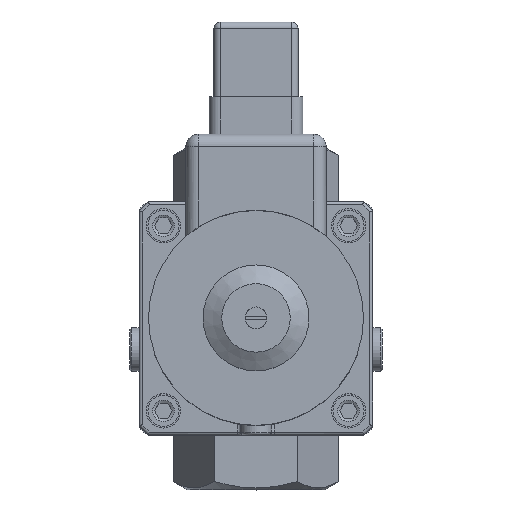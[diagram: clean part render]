
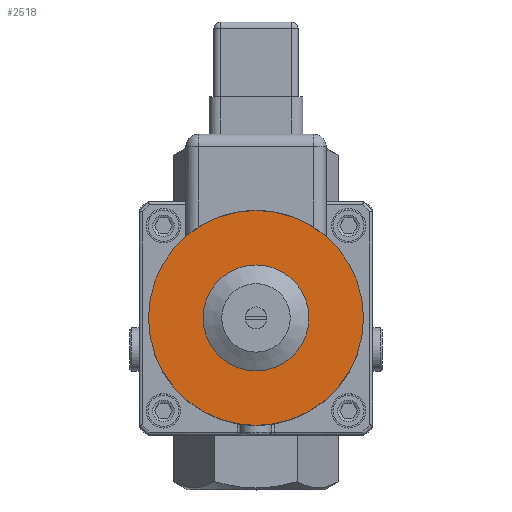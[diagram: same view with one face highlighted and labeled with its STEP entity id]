
A CAD part, top view. The second image highlights one B-rep face of the part: STEP entity #2518.
In plain terms, the highlighted planar face has unit normal (0, 0, 1).
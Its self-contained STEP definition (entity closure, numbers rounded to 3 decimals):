
#2518 = ADVANCED_FACE( '', ( #4045, #4046 ), #4047, .F. );
#4045 = FACE_BOUND( '', #6707, .T. );
#4046 = FACE_OUTER_BOUND( '', #6708, .T. );
#4047 = PLANE( '', #6709 );
#6707 = EDGE_LOOP( '', ( #10245 ) );
#6708 = EDGE_LOOP( '', ( #10246 ) );
#6709 = AXIS2_PLACEMENT_3D( '', #10247, #10248, #10249 );
#10245 = ORIENTED_EDGE( '', *, *, #11579, .T. );
#10246 = ORIENTED_EDGE( '', *, *, #11570, .F. );
#10247 = CARTESIAN_POINT( '', ( 0., 0., 60. ) );
#10248 = DIRECTION( '', ( 0., 0., -1. ) );
#10249 = DIRECTION( '', ( -1., 0., 0. ) );
#11570 = EDGE_CURVE( '', #13245, #13245, #13246, .T. );
#11579 = EDGE_CURVE( '', #13262, #13262, #13263, .T. );
#13245 = VERTEX_POINT( '', #17727 );
#13246 = CIRCLE( '', #17728, 34.5 );
#13262 = VERTEX_POINT( '', #17793 );
#13263 = CIRCLE( '', #17794, 13.75 );
#17727 = CARTESIAN_POINT( '', ( 34.5, 0., 60. ) );
#17728 = AXIS2_PLACEMENT_3D( '', #19709, #19710, #19711 );
#17793 = CARTESIAN_POINT( '', ( 13.75, 0., 60. ) );
#17794 = AXIS2_PLACEMENT_3D( '', #19723, #19724, #19725 );
#19709 = CARTESIAN_POINT( '', ( 0., 0., 60. ) );
#19710 = DIRECTION( '', ( 0., 0., -1. ) );
#19711 = DIRECTION( '', ( 1., 0., 0. ) );
#19723 = CARTESIAN_POINT( '', ( 0., 0., 60. ) );
#19724 = DIRECTION( '', ( 0., 0., -1. ) );
#19725 = DIRECTION( '', ( 1., 0., 0. ) );
